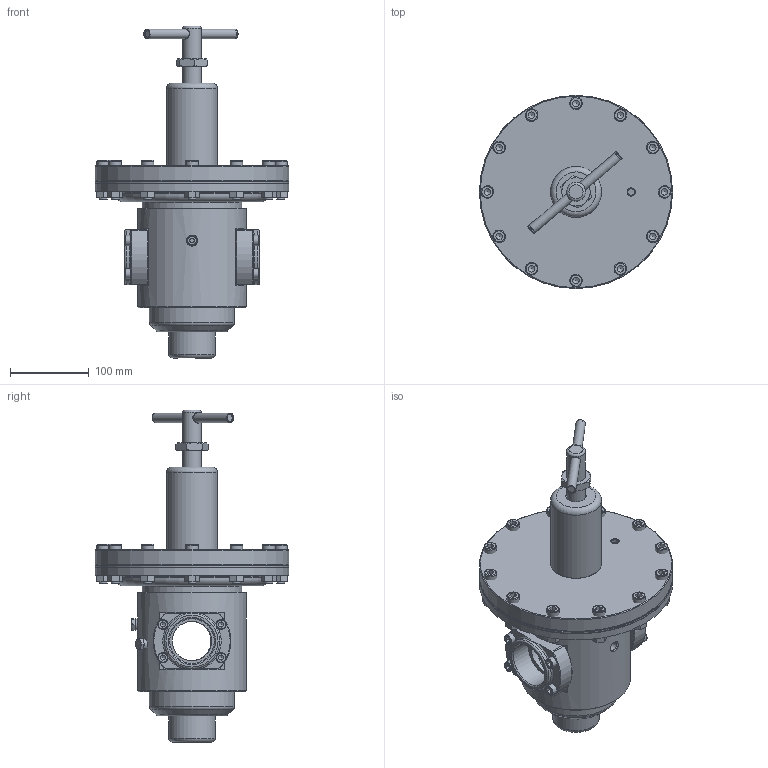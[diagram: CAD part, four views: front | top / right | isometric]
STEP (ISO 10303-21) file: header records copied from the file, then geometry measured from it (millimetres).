
FILE_DESCRIPTION((''),'2;1');
FILE_NAME('I:\GEN\STEP AIRCOM\C01258.stp','2016-10-12T10:06:59',('MLazzarato'),(''),'Autodesk Inventor 2010','Autodesk Inventor 2010','');
FILE_SCHEMA(('AUTOMOTIVE_DESIGN { 1 0 10303 214 1 1 1 1 }'));
Length unit declared in the file: millimetre
Products named in the file (43): C01258; P20367; P34140; P34141; P37063; C01250 - O Ring 189; C01250 - O Ring 3243; P34014; UNI 5931 M 8 x  30; P64007; P31004; P64019; C01256 - P23023; C01256 - P23024; C43013; P43064; P30012; 0DN111; UNI 5931 M 10 x  40; 0DM10600; UNI 5931 M 10 x  40_1; 0DM10600_1; UNI 5931 M 10 x  40_2; 0DM10600_2; UNI 5931 M 10 x  40_3; 0DM10600_3; UNI 5931 M 10 x  40_4; 0DM10600_4; UNI 5931 M 10 x  40_5; 0DM10600_5; UNI 5931 M 10 x  40_6; 0DM10600_6; UNI 5931 M 10 x  40_7; 0DM10600_7; UNI 5931 M 10 x  40_8; 0DM10600_8; UNI 5931 M 10 x  40_9; 0DM10600_9; UNI 5931 M 10 x  40_10; 0DM10600_10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
Assembly tree (51 placements, depth 3):
  C01258
    P20367
    P34140
    P34141
    P37063  x2
    C01250 - O Ring 189
    C01250 - O Ring 3243  x2
    P34014
    UNI 5931 M 8 x  30  x8
    P64007
    P31004
    P64019
    C01256 - P23023
    C01256 - P23024
    C43013
      P43064
      P30012
      0DN111
    UNI 5931 M 10 x  40
    0DM10600
    UNI 5931 M 10 x  40_1
    0DM10600_1
    UNI 5931 M 10 x  40_2
    0DM10600_2
    UNI 5931 M 10 x  40_3
    0DM10600_3
    UNI 5931 M 10 x  40_4
    0DM10600_4
    UNI 5931 M 10 x  40_5
    0DM10600_5
    UNI 5931 M 10 x  40_6
    0DM10600_6
    UNI 5931 M 10 x  40_7
    0DM10600_7
    UNI 5931 M 10 x  40_8
    0DM10600_8
    UNI 5931 M 10 x  40_9
    0DM10600_9
    UNI 5931 M 10 x  40_10
    0DM10600_10
    UNI 5931 M 10 x  40_11
    0DM10600_11
    P34014030304
Bounding box: 245 x 245 x 421.06 mm (x, y, z)
Volume: 1582973.9 mm3; surface area: 556740.9 mm2
Topology: 62 solids, 62 shells, 939 faces, 2130 edges, 1331 vertices
Faces by surface type: plane 390, cone 304, cylinder 179, torus 34, bspline 30, revolution 2
Full cylindrical faces by diameter (mm): 5.5 x3, 6 x4, 6.647 x8, 8 x8, 8.376 x12, 8.5 x8, 8.566 x1, 10 x26, 10.5 x24, 11 x2, 11.445 x3, 12 x1, 12.2 x1, 13 x8, 13.157 x2, 16 x12, 21.835 x2, 24 x1, 50 x2, 54.376 x1, 56 x1, 56.656 x2, 57 x1, 58.818 x1, 59 x1, 61.5 x2, 62.376 x1, 64 x1, 64.5 x2, 67.2 x2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
Entity records: 23041 total; most frequent: CARTESIAN_POINT 6425, DIRECTION 3271, ORIENTED_EDGE 2796, AXIS2_PLACEMENT_3D 1492, EDGE_CURVE 1398, EDGE_LOOP 1214, VERTEX_POINT 998, FACE_OUTER_BOUND 800
